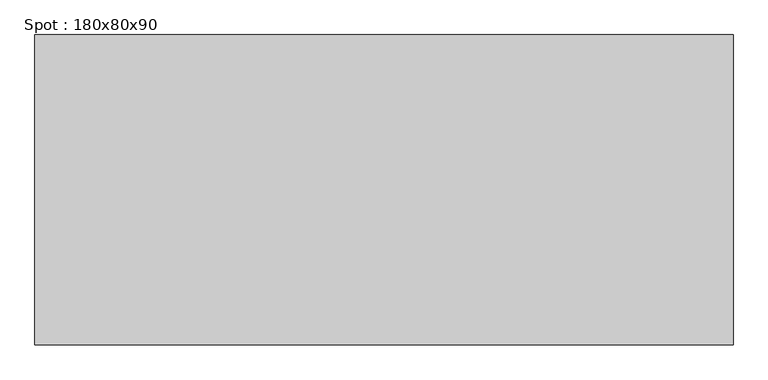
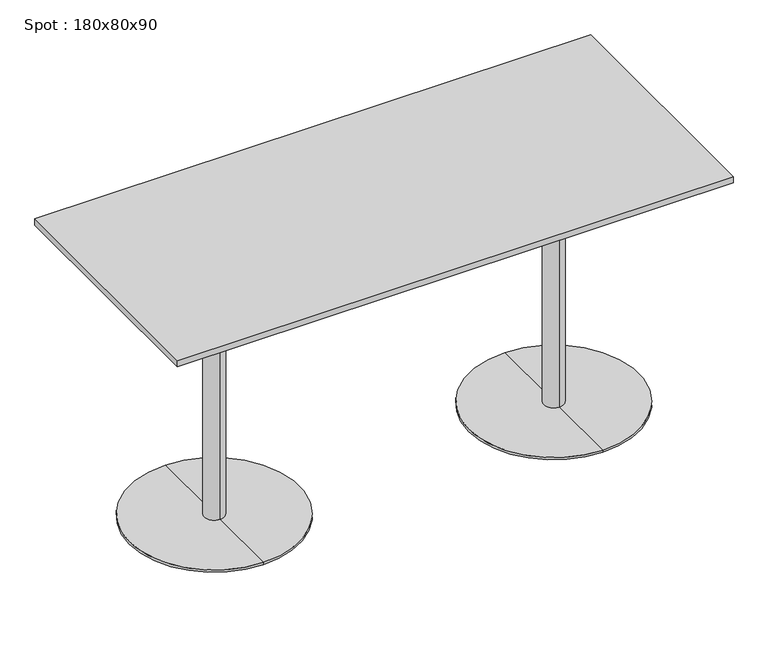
"""IFC4 building model written with IfcOpenShell, lengths in millimetres: furniture geometry, Spot : 180x80x90."""

import ifcopenshell
import ifcopenshell.guid

model = None  # the IFC model being written
_history = None  # IfcOwnerHistory: only IFC2X3 demands one
_inside = {}  # id of a spatial element -> (the spatial element, [elements in it])
_under = {}  # id of a project, library or spatial element -> (it, [spatial elements below it])
_declared = {}  # id of a project -> (the project, [libraries it declares])
_typed = {}  # id of a type object -> (the type object, [elements of that type])
_made_of = {}  # id of a material, layer set ... -> (it, [elements and type objects made of it])


def new_model(schema):
    """Start an empty IFC model of exactly this schema.

    Asked for "IFC4X3", IfcOpenShell would pick the latest addendum, in which some entities
    have other attributes; the version numbers below select the first issue.
    IFC2X3 requires an IfcOwnerHistory on every rooted entity: one is made here for all.
    """
    global model, _history
    if schema == "IFC4X3":
        model = ifcopenshell.file(schema_version=(4, 3, 0, 0))
    else:
        model = ifcopenshell.file(schema=schema)
    _inside.clear()
    _under.clear()
    _declared.clear()
    _typed.clear()
    _made_of.clear()
    _history = None
    if model.schema == "IFC2X3":
        org = make("IfcOrganization", Name="unknown")
        user = make(
            "IfcPersonAndOrganization",
            ThePerson=make("IfcPerson", FamilyName="unknown"),
            TheOrganization=org,
        )
        app = make(
            "IfcApplication",
            ApplicationDeveloper=org,
            Version="unknown",
            ApplicationFullName="unknown",
            ApplicationIdentifier="unknown",
        )
        _history = make(
            "IfcOwnerHistory",
            OwningUser=user,
            OwningApplication=app,
            ChangeAction="ADDED",
            CreationDate=0,
        )
    return model


def make(cls, **values):
    """One entity of the class cls with the attributes given. An attribute that is None is left unset."""
    return model.create_entity(
        cls, **{name: value for name, value in values.items() if value is not None}
    )


def rooted(cls, **values):
    """An entity with a GlobalId (a new one), such as an element, a storey or a relation."""
    return make(cls, GlobalId=ifcopenshell.guid.new(), OwnerHistory=_history, **values)


def si_unit(unit_type, name, prefix=None):
    """IfcSIUnit, for example si_unit("LENGTHUNIT", "METRE", prefix="MILLI")."""
    return make("IfcSIUnit", UnitType=unit_type, Prefix=prefix, Name=name)


def assignment(units):
    """IfcUnitAssignment: the units of a project."""
    return None if units is None else make("IfcUnitAssignment", Units=units)


def point(xyz):
    """IfcCartesianPoint."""
    return None if xyz is None else make("IfcCartesianPoint", Coordinates=xyz)


def direction(xyz):
    """IfcDirection."""
    return None if xyz is None else make("IfcDirection", DirectionRatios=xyz)


def frame(location, z_axis=None, x_axis=None):
    """IfcAxis2Placement3D, a coordinate frame: its origin and axes. An axis left out is left unset."""
    return make(
        "IfcAxis2Placement3D",
        Location=point(location),
        Axis=direction(z_axis),
        RefDirection=direction(x_axis),
    )


def origin():
    """The frame at (0, 0, 0) with its axes left unset."""
    return frame((0.0, 0.0, 0.0))


def place(relative_to, where):
    """IfcLocalPlacement: puts the frame where relative to a parent placement (None: the world)."""
    return make(
        "IfcLocalPlacement", PlacementRelTo=relative_to, RelativePlacement=where
    )


def context(
    kind, dimensions, precision=None, world=None, true_north=None, identifier=None
):
    """IfcGeometricRepresentationContext, for example the 3D "Model" context."""
    return make(
        "IfcGeometricRepresentationContext",
        ContextIdentifier=identifier,
        ContextType=kind,
        CoordinateSpaceDimension=dimensions,
        Precision=precision,
        WorldCoordinateSystem=world,
        TrueNorth=true_north,
    )


def project(units=None, contexts=None):
    """IfcProject with its units and contexts."""
    return rooted(
        "IfcProject",
        Name="project",
        RepresentationContexts=contexts,
        UnitsInContext=assignment(units),
    )


def spatial(cls, under=None, at=None, **own):
    """A site, building, storey or space (cls), placed at a placement, below another one or the project."""
    s = rooted(cls, ObjectPlacement=at, **own)
    if under is not None:
        _under.setdefault(under.id(), (under, []))[1].append(s)
    return s


def polyline(points):
    """IfcPolyline through the points."""
    return make("IfcPolyline", Points=[point(p) for p in points])


def circle_curve(where, radius):
    """IfcCircle in the frame where."""
    return make("IfcCircle", Position=where, Radius=radius)


def outline(outer, holes=None, kind="AREA"):
    """IfcArbitraryClosedProfileDef: a profile drawn as a closed curve; with holes, ...WithVoids."""
    if holes is None:
        return make("IfcArbitraryClosedProfileDef", ProfileType=kind, OuterCurve=outer)
    return make(
        "IfcArbitraryProfileDefWithVoids",
        ProfileType=kind,
        OuterCurve=outer,
        InnerCurves=holes,
    )


def extrude(swept, where, along, depth):
    """IfcExtrudedAreaSolid: the profile swept, set in the frame where, extruded along a direction by depth."""
    return make(
        "IfcExtrudedAreaSolid",
        SweptArea=swept,
        Position=where,
        ExtrudedDirection=direction(along),
        Depth=depth,
    )


def shape(context_of_items, identifier, shape_type, items):
    """IfcShapeRepresentation: the items that make up one representation, for example the "Body"."""
    return make(
        "IfcShapeRepresentation",
        ContextOfItems=context_of_items,
        RepresentationIdentifier=identifier,
        RepresentationType=shape_type,
        Items=items,
    )


def source(mapping_origin, context_of_items, identifier, shape_type, items):
    """IfcRepresentationMap: a shape defined once, which mapped items show again and again."""
    return make(
        "IfcRepresentationMap",
        MappingOrigin=mapping_origin,
        MappedRepresentation=shape(context_of_items, identifier, shape_type, items),
    )


def transform(
    local_origin,
    x_axis=None,
    y_axis=None,
    z_axis=None,
    scale=None,
    scale2=None,
    scale3=None,
    uniform=True,
):
    """IfcCartesianTransformationOperator3D, or its non-uniform kind. x_axis, y_axis, z_axis: its Axis1, 2, 3."""
    if uniform:
        return make(
            "IfcCartesianTransformationOperator3D",
            Axis1=direction(x_axis),
            Axis2=direction(y_axis),
            LocalOrigin=point(local_origin),
            Scale=scale,
            Axis3=direction(z_axis),
        )
    return make(
        "IfcCartesianTransformationOperator3DnonUniform",
        Axis1=direction(x_axis),
        Axis2=direction(y_axis),
        LocalOrigin=point(local_origin),
        Scale=scale,
        Axis3=direction(z_axis),
        Scale2=scale2,
        Scale3=scale3,
    )


def mapped(mapping_source, mapping_target):
    """IfcMappedItem: shows the shape of a source again, moved by a transform."""
    return make(
        "IfcMappedItem", MappingSource=mapping_source, MappingTarget=mapping_target
    )


def made_of(thing, what):
    """Note that an element or type object is made of a material, layer set ...; save() writes the relation."""
    if what is not None:
        _made_of.setdefault(what.id(), (what, []))[1].append(thing)
    return thing


def element(
    cls,
    number,
    at=None,
    inside=None,
    cuts=None,
    type_object=None,
    material=None,
    context=None,
    identifier="Body",
    shape_type=None,
    held_by="IfcProductDefinitionShape",
    body=None,
    shapes=None,
    **own,
):
    """One element of the class cls, such as IfcWall. Its Tag is "e" and its number.

    at: its placement. inside: the storey or other place that contains it. cuts: it is an
    opening in that element (IfcRelVoidsElement). A single representation is given by context,
    identifier, shape_type and body (its items); several are given by shapes. held_by: the class
    of the entity that holds the representations. save() writes the other relations.
    """
    e = rooted(cls, Tag="e%d" % number, ObjectPlacement=at, **own)
    if body is not None:
        shapes = [shape(context, identifier, shape_type, body)]
    if shapes is not None:
        e.Representation = make(held_by, Representations=shapes)
    if inside is not None:
        _inside.setdefault(inside.id(), (inside, []))[1].append(e)
    if cuts is not None:
        rooted(
            "IfcRelVoidsElement", RelatingBuildingElement=cuts, RelatedOpeningElement=e
        )
    if type_object is not None:
        _typed.setdefault(type_object.id(), (type_object, []))[1].append(e)
    return made_of(e, material)


def aggregate(whole, parts):
    """IfcRelAggregates: a whole, such as a stair, and the parts it consists of."""
    return rooted("IfcRelAggregates", RelatingObject=whole, RelatedObjects=parts)


def save(model, path):
    """Write the relations noted so far, then the file.

    IfcRelAggregates (storeys below a building ...), IfcRelContainedInSpatialStructure (elements
    in a storey), IfcRelDefinesByType, IfcRelAssociatesMaterial and IfcRelDeclares: one each for
    every whole, place, type object, material and project.
    """
    for whole, parts in _under.values():
        aggregate(whole, parts)
    for where, things in _inside.values():
        rooted(
            "IfcRelContainedInSpatialStructure",
            RelatedElements=things,
            RelatingStructure=where,
        )
    for kind, things in _typed.values():
        rooted("IfcRelDefinesByType", RelatedObjects=things, RelatingType=kind)
    for what, things in _made_of.values():
        rooted("IfcRelAssociatesMaterial", RelatedObjects=things, RelatingMaterial=what)
    for by, libraries in _declared.values():
        rooted("IfcRelDeclares", RelatingContext=by, RelatedDefinitions=libraries)
    model.write(path)


def plane_surface(at):
    """IfcPlane: the flat surface through the origin of the frame at, square to its z axis."""
    return make("IfcPlane", Position=at)


def cylinder_surface(at, radius):
    """IfcCylindricalSurface: all points at the distance radius from the z axis of the frame at."""
    return make("IfcCylindricalSurface", Position=at, Radius=radius)


def revolved_surface(curve, axis_point, axis_direction):
    """IfcSurfaceOfRevolution: the curve turned about the line through axis_point along axis_direction."""
    return make(
        "IfcSurfaceOfRevolution",
        SweptCurve=make("IfcArbitraryOpenProfileDef", ProfileType="CURVE", Curve=curve),
        AxisPosition=make("IfcAxis1Placement", Location=point(axis_point), Axis=direction(axis_direction)),
    )


def advanced_brep(points, edges, surfaces, faces):
    """IfcAdvancedBrep: a solid bounded by faces that lie on surfaces and meet in shared edges.

    An edge is (start, end): straight between two places in points (the first is 0);
    or (start, end, curve); or (start, end, curve, False) where it runs against its curve.
    A face is (place in surfaces, loops), or (place, loops, False) where it looks against
    its surface's normal. A loop lists edges by number (the first is 1), with a minus sign
    where the edge is run from its end to its start. The first loop is the outer one.
    """
    corners = [point(p) for p in points]
    vertices = [make("IfcVertexPoint", VertexGeometry=c) for c in corners]
    made = []
    for start, end, *more in edges:
        made.append(
            make(
                "IfcEdgeCurve",
                EdgeStart=vertices[start],
                EdgeEnd=vertices[end],
                EdgeGeometry=more[0] if more else make("IfcPolyline", Points=[corners[start], corners[end]]),
                SameSense=more[1] if len(more) > 1 else True,
            )
        )
    hull = []
    for where, loops, *sense in faces:
        bounds = []
        for j, loop in enumerate(loops):
            ring = [make("IfcOrientedEdge", EdgeElement=made[abs(k) - 1], Orientation=k > 0) for k in loop]
            bounds.append(
                make(
                    "IfcFaceOuterBound" if j == 0 else "IfcFaceBound",
                    Bound=make("IfcEdgeLoop", EdgeList=ring),
                    Orientation=True,
                )
            )
        hull.append(make("IfcAdvancedFace", Bounds=bounds, FaceSurface=surfaces[where], SameSense=sense[0] if sense else True))
    return make("IfcAdvancedBrep", Outer=make("IfcClosedShell", CfsFaces=hull))


def spot_180x80x90_10cd631b(model_context):
    return source(origin(), model_context, "Body", "SolidModel", [
        extrude(outline(polyline([(900.0, 400.0), (900.0, -400.0), (-900.0, -400.0), (-900.0, 400.0), (900.0, 400.0)])), frame((0.0, 0.0, 878.0), z_axis=(0.0, 0.0, 1.0), x_axis=(1.0, 0.0, 0.0)), (0.0, 0.0, 1.0), 22.0),
        advanced_brep(
        [(-550.0, 32.0, 10.0), (-550.0, -32.0, 10.0), (-550.0, -32.0, 847.406916), (-550.0, 32.0, 847.406916), (-550.0, 275.0, 10.0), (-550.0, -275.0, 10.0), (-550.0, 275.0, 2.0), (-550.0, -275.0, 2.0), (-550.0, 0.0, 2.0), (-550.0, 150.0, 878.0), (-550.0, -150.0, 878.0), (-550.0, 0.0, 878.0), (-550.0, 150.0, 866.7213673), (-550.0, -150.0, 866.7213673)],
        [
            (0, 1, circle_curve(frame((-550.0, 0.0, 10.0), z_axis=(0.0, 0.0, 1.0), x_axis=(0.0, -1.0, 0.0)), 32.0)),
            (1, 2),
            (2, 3, circle_curve(frame((-550.0, 0.0, 847.406916), z_axis=(0.0, 0.0, -1.0), x_axis=(0.0, -1.0, 0.0)), 32.0)),
            (3, 0),
            (1, 0, circle_curve(frame((-550.0, 0.0, 10.0), z_axis=(0.0, 0.0, 1.0), x_axis=(0.0, -1.0, 0.0)), 32.0)),
            (3, 2, circle_curve(frame((-550.0, 0.0, 847.406916), z_axis=(0.0, 0.0, -1.0), x_axis=(0.0, -1.0, 0.0)), 32.0)),
            (4, 5, circle_curve(frame((-550.0, 0.0, 10.0), z_axis=(0.0, 0.0, 1.0), x_axis=(0.0, -1.0, 0.0)), 275.0)),
            (5, 1),
            (0, 4),
            (5, 4, circle_curve(frame((-550.0, 0.0, 10.0), z_axis=(0.0, 0.0, 1.0), x_axis=(0.0, -1.0, 0.0)), 275.0)),
            (6, 7, circle_curve(frame((-550.0, 0.0, 2.0), z_axis=(0.0, 0.0, 1.0), x_axis=(0.0, -1.0, 0.0)), 275.0)),
            (7, 5),
            (4, 6),
            (7, 6, circle_curve(frame((-550.0, 0.0, 2.0), z_axis=(0.0, 0.0, 1.0), x_axis=(0.0, -1.0, 0.0)), 275.0)),
            (8, 7),
            (6, 8),
            (9, 10, circle_curve(frame((-550.0, 0.0, 878.0), z_axis=(0.0, 0.0, 1.0), x_axis=(0.0, -1.0, 0.0)), 150.0)),
            (10, 11),
            (11, 9),
            (10, 9, circle_curve(frame((-550.0, 0.0, 878.0), z_axis=(0.0, 0.0, 1.0), x_axis=(0.0, -1.0, 0.0)), 150.0)),
            (12, 13, circle_curve(frame((-550.0, 0.0, 866.7213673), z_axis=(0.0, 0.0, 1.0), x_axis=(0.0, -1.0, 0.0)), 150.0)),
            (13, 10),
            (9, 12),
            (13, 12, circle_curve(frame((-550.0, 0.0, 866.7213673), z_axis=(0.0, 0.0, 1.0), x_axis=(0.0, -1.0, 0.0)), 150.0)),
            (2, 13),
            (12, 3),
        ],
        [
            cylinder_surface(frame((-550.0, 0.0, 1240.0), z_axis=(0.0, 0.0, -1.0), x_axis=(0.0, -1.0, 0.0)), 32.0),
            plane_surface(frame((-550.0, 0.0, 10.0), z_axis=(0.0, 0.0, 1.0), x_axis=(0.0, -1.0, 0.0))),
            cylinder_surface(frame((-550.0, 0.0, 1240.0), z_axis=(0.0, 0.0, -1.0), x_axis=(0.0, -1.0, 0.0)), 275.0),
            plane_surface(frame((-550.0, 0.0, 2.0), z_axis=(0.0, 0.0, -1.0), x_axis=(0.0, -1.0, 0.0))),
            plane_surface(frame((-550.0, 0.0, 878.0), z_axis=(0.0, 0.0, 1.0), x_axis=(0.0, -1.0, 0.0))),
            cylinder_surface(frame((-550.0, 0.0, 1240.0), z_axis=(0.0, 0.0, -1.0), x_axis=(0.0, -1.0, 0.0)), 150.0),
            revolved_surface(polyline([(-550.0, -150.0, 866.7213673), (-550.0, -32.0, 847.406916)]), (-550.0, 0.0, 1240.0), (0.0, 0.0, -1.0)),
        ],
        [
            (0, [[1, 2, 3, 4]]),
            (0, [[5, -4, 6, -2]]),
            (1, [[7, 8, -1, 9]]),
            (1, [[10, -9, -5, -8]]),
            (2, [[11, 12, -7, 13]]),
            (2, [[14, -13, -10, -12]]),
            (3, [[15, -11, 16]]),
            (3, [[-16, -14, -15]]),
            (4, [[17, 18, 19]]),
            (4, [[20, -19, -18]]),
            (5, [[21, 22, -17, 23]]),
            (5, [[24, -23, -20, -22]]),
            (6, [[-3, 25, -21, 26]]),
            (6, [[-6, -26, -24, -25]]),
        ],
    ),
        advanced_brep(
        [(550.0, 32.0, 10.0), (550.0, -32.0, 10.0), (550.0, -32.0, 847.406916), (550.0, 32.0, 847.406916), (550.0, 275.0, 10.0), (550.0, -275.0, 10.0), (550.0, 275.0, 2.0), (550.0, -275.0, 2.0), (550.0, 0.0, 2.0), (550.0, 150.0, 878.0), (550.0, -150.0, 878.0), (550.0, 0.0, 878.0), (550.0, 150.0, 866.7213673), (550.0, -150.0, 866.7213673)],
        [
            (0, 1, circle_curve(frame((550.0, 0.0, 10.0), z_axis=(0.0, 0.0, 1.0), x_axis=(0.0, -1.0, 0.0)), 32.0)),
            (1, 2),
            (2, 3, circle_curve(frame((550.0, 0.0, 847.406916), z_axis=(0.0, 0.0, -1.0), x_axis=(0.0, -1.0, 0.0)), 32.0)),
            (3, 0),
            (1, 0, circle_curve(frame((550.0, 0.0, 10.0), z_axis=(0.0, 0.0, 1.0), x_axis=(0.0, -1.0, 0.0)), 32.0)),
            (3, 2, circle_curve(frame((550.0, 0.0, 847.406916), z_axis=(0.0, 0.0, -1.0), x_axis=(0.0, -1.0, 0.0)), 32.0)),
            (4, 5, circle_curve(frame((550.0, 0.0, 10.0), z_axis=(0.0, 0.0, 1.0), x_axis=(0.0, -1.0, 0.0)), 275.0)),
            (5, 1),
            (0, 4),
            (5, 4, circle_curve(frame((550.0, 0.0, 10.0), z_axis=(0.0, 0.0, 1.0), x_axis=(0.0, -1.0, 0.0)), 275.0)),
            (6, 7, circle_curve(frame((550.0, 0.0, 2.0), z_axis=(0.0, 0.0, 1.0), x_axis=(0.0, -1.0, 0.0)), 275.0)),
            (7, 5),
            (4, 6),
            (7, 6, circle_curve(frame((550.0, 0.0, 2.0), z_axis=(0.0, 0.0, 1.0), x_axis=(0.0, -1.0, 0.0)), 275.0)),
            (8, 7),
            (6, 8),
            (9, 10, circle_curve(frame((550.0, 0.0, 878.0), z_axis=(0.0, 0.0, 1.0), x_axis=(0.0, -1.0, 0.0)), 150.0)),
            (10, 11),
            (11, 9),
            (10, 9, circle_curve(frame((550.0, 0.0, 878.0), z_axis=(0.0, 0.0, 1.0), x_axis=(0.0, -1.0, 0.0)), 150.0)),
            (12, 13, circle_curve(frame((550.0, 0.0, 866.7213673), z_axis=(0.0, 0.0, 1.0), x_axis=(0.0, -1.0, 0.0)), 150.0)),
            (13, 10),
            (9, 12),
            (13, 12, circle_curve(frame((550.0, 0.0, 866.7213673), z_axis=(0.0, 0.0, 1.0), x_axis=(0.0, -1.0, 0.0)), 150.0)),
            (2, 13),
            (12, 3),
        ],
        [
            cylinder_surface(frame((550.0, 0.0, 1240.0), z_axis=(0.0, 0.0, -1.0), x_axis=(0.0, -1.0, 0.0)), 32.0),
            plane_surface(frame((550.0, 0.0, 10.0), z_axis=(0.0, 0.0, 1.0), x_axis=(0.0, -1.0, 0.0))),
            cylinder_surface(frame((550.0, 0.0, 1240.0), z_axis=(0.0, 0.0, -1.0), x_axis=(0.0, -1.0, 0.0)), 275.0),
            plane_surface(frame((550.0, 0.0, 2.0), z_axis=(0.0, 0.0, -1.0), x_axis=(0.0, -1.0, 0.0))),
            plane_surface(frame((550.0, 0.0, 878.0), z_axis=(0.0, 0.0, 1.0), x_axis=(0.0, -1.0, 0.0))),
            cylinder_surface(frame((550.0, 0.0, 1240.0), z_axis=(0.0, 0.0, -1.0), x_axis=(0.0, -1.0, 0.0)), 150.0),
            revolved_surface(polyline([(550.0, -150.0, 866.7213673), (550.0, -32.0, 847.406916)]), (550.0, 0.0, 1240.0), (0.0, 0.0, -1.0)),
        ],
        [
            (0, [[1, 2, 3, 4]]),
            (0, [[5, -4, 6, -2]]),
            (1, [[7, 8, -1, 9]]),
            (1, [[10, -9, -5, -8]]),
            (2, [[11, 12, -7, 13]]),
            (2, [[14, -13, -10, -12]]),
            (3, [[15, -11, 16]]),
            (3, [[-16, -14, -15]]),
            (4, [[17, 18, 19]]),
            (4, [[20, -19, -18]]),
            (5, [[21, 22, -17, 23]]),
            (5, [[24, -23, -20, -22]]),
            (6, [[-3, 25, -21, 26]]),
            (6, [[-6, -26, -24, -25]]),
        ],
    ),
    ])


if __name__ == "__main__":
    model = new_model("IFC4")
    model_context = context("Model", 3, world=origin())
    ifc_project = project(units=[si_unit("LENGTHUNIT", "METRE", prefix="MILLI")], contexts=[model_context])
    site = spatial("IfcSite", under=ifc_project)
    building = spatial("IfcBuilding", under=site)
    placement = place(None, origin())
    spot_180x80x90_shape = spot_180x80x90_10cd631b(model_context)
    element("IfcFurniture", 1, ObjectType="Spot : 180x80x90", at=placement, inside=building, context=model_context, shape_type="MappedRepresentation", body=[
        mapped(spot_180x80x90_shape, transform((0.0, 0.0, 0.0), x_axis=(1.0, 0.0, 0.0), y_axis=(0.0, 1.0, 0.0), z_axis=(0.0, 0.0, 1.0))),
    ])
    save(model, "model.ifc")
